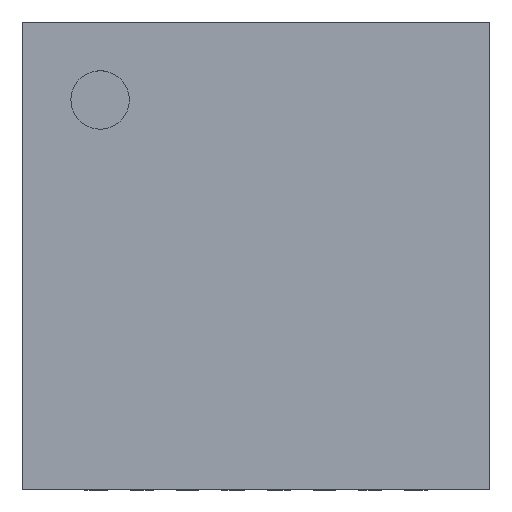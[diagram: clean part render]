
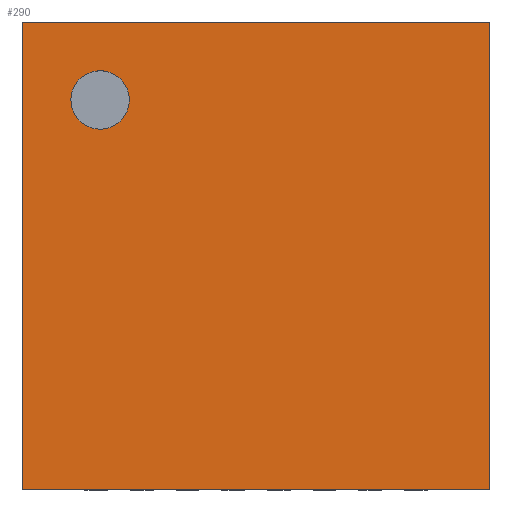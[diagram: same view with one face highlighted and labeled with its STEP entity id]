
A CAD part, top view. The second image highlights one B-rep face of the part: STEP entity #290.
In plain terms, the highlighted planar face has unit normal (0, 0, 1).
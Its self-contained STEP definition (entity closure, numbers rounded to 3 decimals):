
#226 = VERTEX_POINT('',#227);
#227 = CARTESIAN_POINT('',(0.,0.,0.8));
#242 = VERTEX_POINT('',#243);
#243 = CARTESIAN_POINT('',(0.,4.1,0.8));
#249 = EDGE_CURVE('',#226,#242,#250,.T.);
#250 = LINE('',#251,#252);
#251 = CARTESIAN_POINT('',(0.,0.,0.8));
#252 = VECTOR('',#253,1.);
#253 = DIRECTION('',(0.,1.,0.));
#272 = EDGE_CURVE('',#226,#273,#275,.T.);
#273 = VERTEX_POINT('',#274);
#274 = CARTESIAN_POINT('',(4.1,0.,0.8));
#275 = LINE('',#276,#277);
#276 = CARTESIAN_POINT('',(0.,0.,0.8));
#277 = VECTOR('',#278,1.);
#278 = DIRECTION('',(1.,0.,0.));
#290 = ADVANCED_FACE('',(#291,#309),#320,.T.);
#291 = FACE_BOUND('',#292,.T.);
#292 = EDGE_LOOP('',(#293,#294,#295,#303));
#293 = ORIENTED_EDGE('',*,*,#249,.F.);
#294 = ORIENTED_EDGE('',*,*,#272,.T.);
#295 = ORIENTED_EDGE('',*,*,#296,.T.);
#296 = EDGE_CURVE('',#273,#297,#299,.T.);
#297 = VERTEX_POINT('',#298);
#298 = CARTESIAN_POINT('',(4.1,4.1,0.8));
#299 = LINE('',#300,#301);
#300 = CARTESIAN_POINT('',(4.1,0.,0.8));
#301 = VECTOR('',#302,1.);
#302 = DIRECTION('',(0.,1.,0.));
#303 = ORIENTED_EDGE('',*,*,#304,.F.);
#304 = EDGE_CURVE('',#242,#297,#305,.T.);
#305 = LINE('',#306,#307);
#306 = CARTESIAN_POINT('',(0.,4.1,0.8));
#307 = VECTOR('',#308,1.);
#308 = DIRECTION('',(1.,0.,0.));
#309 = FACE_BOUND('',#310,.T.);
#310 = EDGE_LOOP('',(#311));
#311 = ORIENTED_EDGE('',*,*,#312,.F.);
#312 = EDGE_CURVE('',#313,#313,#315,.T.);
#313 = VERTEX_POINT('',#314);
#314 = CARTESIAN_POINT('',(0.94,3.417,0.8));
#315 = CIRCLE('',#316,0.256);
#316 = AXIS2_PLACEMENT_3D('',#317,#318,#319);
#317 = CARTESIAN_POINT('',(0.683,3.417,0.8));
#318 = DIRECTION('',(0.,0.,1.));
#319 = DIRECTION('',(1.,0.,0.));
#320 = PLANE('',#321);
#321 = AXIS2_PLACEMENT_3D('',#322,#323,#324);
#322 = CARTESIAN_POINT('',(0.,0.,0.8));
#323 = DIRECTION('',(0.,0.,1.));
#324 = DIRECTION('',(1.,0.,0.));
